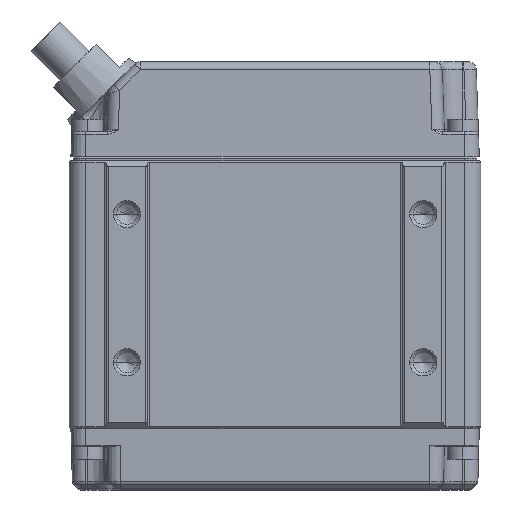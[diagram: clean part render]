
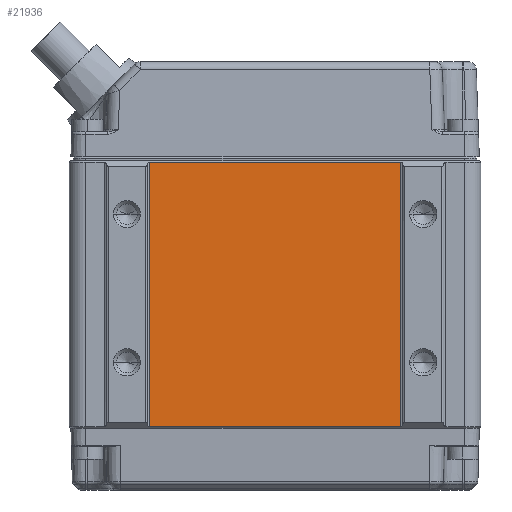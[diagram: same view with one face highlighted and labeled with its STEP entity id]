
A CAD part, front view. The second image highlights one B-rep face of the part: STEP entity #21936.
In plain terms, the highlighted planar face has unit normal (0, -1, 0).
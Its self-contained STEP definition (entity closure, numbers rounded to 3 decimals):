
#6363=CARTESIAN_POINT('',(-15.25,-14.,-32.8));
#6368=DIRECTION('',(1.,0.,0.));
#6369=VECTOR('',#6368,30.5);
#6370=CARTESIAN_POINT('',(-15.25,-14.,-32.8));
#6371=LINE('',#6370,#6369);
#6526=DIRECTION('',(-1.,0.,0.));
#6527=VECTOR('',#6526,30.5);
#6528=CARTESIAN_POINT('',(15.25,-14.,-0.7));
#6529=LINE('',#6528,#6527);
#6671=DIRECTION('',(0.,0.,1.));
#6672=VECTOR('',#6671,32.1);
#6673=CARTESIAN_POINT('',(15.25,-14.,-32.8));
#6674=LINE('',#6673,#6672);
#6678=DIRECTION('',(0.,0.,-1.));
#6679=VECTOR('',#6678,32.1);
#6680=CARTESIAN_POINT('',(-15.25,-14.,-0.7));
#6681=LINE('',#6680,#6679);
#14104=VERTEX_POINT('',#6363);
#14105=CARTESIAN_POINT('',(15.25,-14.,-32.8));
#14106=VERTEX_POINT('',#14105);
#14124=CARTESIAN_POINT('',(15.25,-14.,-0.7));
#14125=VERTEX_POINT('',#14124);
#14128=CARTESIAN_POINT('',(-15.25,-14.,-0.7));
#14129=VERTEX_POINT('',#14128);
#21924=CARTESIAN_POINT('',(25.,-14.,-33.));
#21925=DIRECTION('',(0.,-1.,0.));
#21926=DIRECTION('',(-1.,0.,0.));
#21927=AXIS2_PLACEMENT_3D('',#21924,#21925,#21926);
#21928=PLANE('',#21927);
#21929=ORIENTED_EDGE('',*,*,#21918,.F.);
#21930=ORIENTED_EDGE('',*,*,#21736,.F.);
#21932=ORIENTED_EDGE('',*,*,#21931,.F.);
#21933=ORIENTED_EDGE('',*,*,#21837,.F.);
#21934=EDGE_LOOP('',(#21929,#21930,#21932,#21933));
#21935=FACE_OUTER_BOUND('',#21934,.F.);
#21936=ADVANCED_FACE('',(#21935),#21928,.T.);
#21736=EDGE_CURVE('',#14104,#14106,#6371,.T.);
#21837=EDGE_CURVE('',#14125,#14129,#6529,.T.);
#21918=EDGE_CURVE('',#14106,#14125,#6674,.T.);
#21931=EDGE_CURVE('',#14129,#14104,#6681,.T.);
